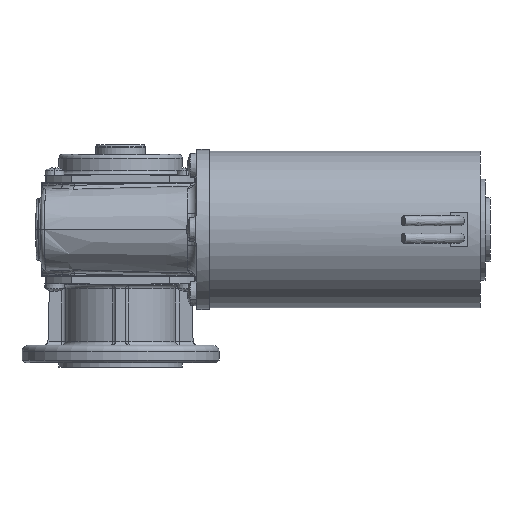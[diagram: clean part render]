
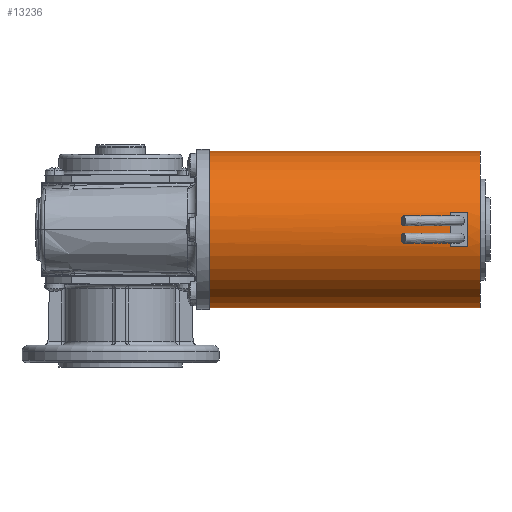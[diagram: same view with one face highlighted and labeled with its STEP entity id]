
A CAD part, front view. The second image highlights one B-rep face of the part: STEP entity #13236.
In plain terms, the highlighted cylindrical face has radius 31.75 mm (diameter 63.5 mm), a partial arc.
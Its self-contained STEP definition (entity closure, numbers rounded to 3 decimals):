
#13236=ADVANCED_FACE('',(#20609,#20610),#20611,.T.);
#20609=FACE_OUTER_BOUND('',#31451,.T.);
#20610=FACE_BOUND('',#31452,.T.);
#20611=CYLINDRICAL_SURFACE('',#31453,31.75);
#31451=EDGE_LOOP('',(#40154,#40155,#40156,#40157));
#31452=EDGE_LOOP('',(#40158,#40159,#40160,#40161));
#31453=AXIS2_PLACEMENT_3D('',#40162,#40163,#40164);
#40154=ORIENTED_EDGE('',*,*,#42779,.T.);
#40155=ORIENTED_EDGE('',*,*,#45691,.T.);
#40156=ORIENTED_EDGE('',*,*,#42781,.T.);
#40157=ORIENTED_EDGE('',*,*,#44929,.T.);
#40158=ORIENTED_EDGE('',*,*,#42617,.F.);
#40159=ORIENTED_EDGE('',*,*,#45753,.F.);
#40160=ORIENTED_EDGE('',*,*,#42892,.F.);
#40161=ORIENTED_EDGE('',*,*,#45482,.F.);
#40162=CARTESIAN_POINT('',(172.135,-38.49,47.635));
#40163=DIRECTION('',(1.0,0.0,0.));
#40164=DIRECTION('',(0.,0.0,1.0));
#42617=EDGE_CURVE('',#49946,#49947,#49948,.T.);
#42779=EDGE_CURVE('',#50208,#50209,#50210,.T.);
#42781=EDGE_CURVE('',#50213,#50211,#50214,.T.);
#42892=EDGE_CURVE('',#50393,#50394,#50395,.T.);
#44929=EDGE_CURVE('',#50211,#50208,#53862,.T.);
#45482=EDGE_CURVE('',#49947,#50393,#54817,.T.);
#45691=EDGE_CURVE('',#50209,#50213,#55164,.T.);
#45753=EDGE_CURVE('',#50394,#49946,#55263,.T.);
#49946=VERTEX_POINT('',#62363);
#49947=VERTEX_POINT('',#62364);
#49948=CIRCLE('',#62365,31.75);
#50208=VERTEX_POINT('',#62816);
#50209=VERTEX_POINT('',#62817);
#50210=LINE('',#62818,#62819);
#50211=VERTEX_POINT('',#62820);
#50213=VERTEX_POINT('',#62822);
#50214=LINE('',#62823,#62824);
#50393=VERTEX_POINT('',#63166);
#50394=VERTEX_POINT('',#63167);
#50395=CIRCLE('',#63168,31.75);
#53862=CIRCLE('',#69337,31.75);
#54817=LINE('',#71036,#71037);
#55164=CIRCLE('',#71668,31.75);
#55263=LINE('',#71810,#71811);
#62363=CARTESIAN_POINT('',(160.135,-69.459,54.635));
#62364=CARTESIAN_POINT('',(160.135,-69.459,40.635));
#62365=AXIS2_PLACEMENT_3D('',#79268,#79269,#79270);
#62816=CARTESIAN_POINT('',(172.135,-38.49,79.385));
#62817=CARTESIAN_POINT('',(62.135,-38.49,79.385));
#62818=CARTESIAN_POINT('',(172.135,-38.49,79.385));
#62819=VECTOR('',#79440,1.0);
#62820=CARTESIAN_POINT('',(172.135,-38.49,15.885));
#62822=CARTESIAN_POINT('',(62.135,-38.49,15.885));
#62823=CARTESIAN_POINT('',(172.135,-38.49,15.885));
#62824=VECTOR('',#79444,1.0);
#63166=CARTESIAN_POINT('',(167.135,-69.459,40.635));
#63167=CARTESIAN_POINT('',(167.135,-69.459,54.635));
#63168=AXIS2_PLACEMENT_3D('',#79552,#79553,#79554);
#69337=AXIS2_PLACEMENT_3D('',#81994,#81995,#81996);
#71036=CARTESIAN_POINT('',(163.635,-69.459,40.635));
#71037=VECTOR('',#82681,1.0);
#71668=AXIS2_PLACEMENT_3D('',#82907,#82908,#82909);
#71810=CARTESIAN_POINT('',(163.635,-69.459,54.635));
#71811=VECTOR('',#82998,1.0);
#79268=CARTESIAN_POINT('',(160.135,-38.49,47.635));
#79269=DIRECTION('',(1.0,0.,0.));
#79270=DIRECTION('',(0.,0.,1.0));
#79440=DIRECTION('',(-1.0,-0.0,0.));
#79444=DIRECTION('',(1.0,0.0,0.));
#79552=CARTESIAN_POINT('',(167.135,-38.49,47.635));
#79553=DIRECTION('',(-1.0,0.,0.));
#79554=DIRECTION('',(0.,0.0,1.0));
#81994=CARTESIAN_POINT('',(172.135,-38.49,47.635));
#81995=DIRECTION('',(-1.0,0.0,0.));
#81996=DIRECTION('',(0.,0.0,1.0));
#82681=DIRECTION('',(1.0,0.0,0.));
#82907=CARTESIAN_POINT('',(62.135,-38.49,47.635));
#82908=DIRECTION('',(1.0,0.0,0.));
#82909=DIRECTION('',(0.,0.0,1.0));
#82998=DIRECTION('',(-1.0,0.0,0.));
